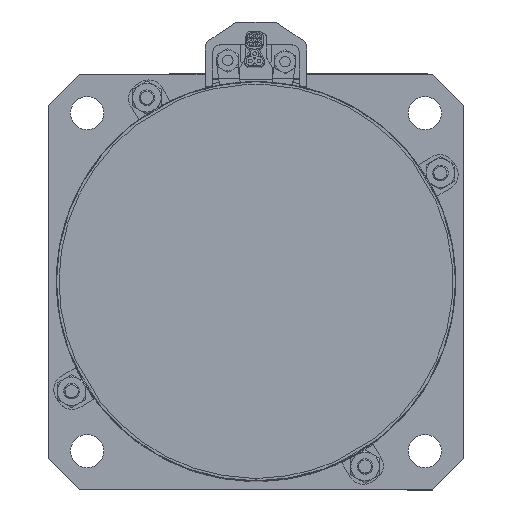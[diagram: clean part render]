
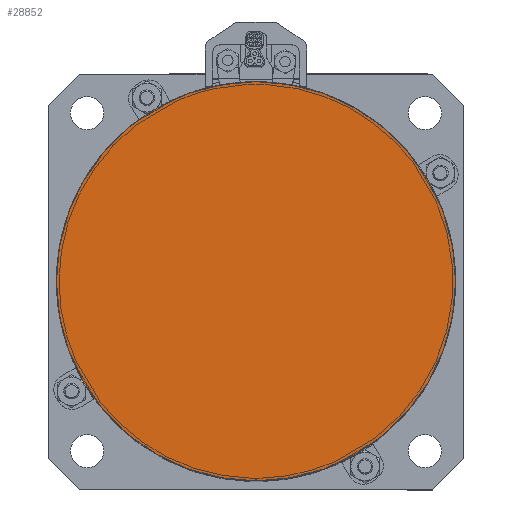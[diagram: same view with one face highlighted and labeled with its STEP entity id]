
A CAD part, top view. The second image highlights one B-rep face of the part: STEP entity #28852.
In plain terms, the highlighted planar face has unit normal (0, 0, 1).
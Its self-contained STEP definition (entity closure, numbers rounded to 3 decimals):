
#49 = ORIENTED_EDGE ( 'NONE', *, *, #8786, .T. ) ;
#678 = CARTESIAN_POINT ( 'NONE',  ( -17.129, -10.71, 147. ) ) ;
#2660 = CIRCLE ( 'NONE', #25470, 38.42 ) ;
#2843 = DIRECTION ( 'NONE',  ( -1., 0., 0. ) ) ;
#8055 = FACE_OUTER_BOUND ( 'NONE', #15977, .T. ) ;
#8383 = VERTEX_POINT ( 'NONE', #33406 ) ;
#8786 = EDGE_CURVE ( 'NONE', #8383, #20148, #28830, .T. ) ;
#11852 = PLANE ( 'NONE',  #40641 ) ;
#13720 = DIRECTION ( 'NONE',  ( -1., 0., 0. ) ) ;
#15977 = EDGE_LOOP ( 'NONE', ( #25951, #49 ) ) ;
#16297 = DIRECTION ( 'NONE',  ( 0., 0., 1. ) ) ;
#16936 = CARTESIAN_POINT ( 'NONE',  ( -55.549, -10.71, 147. ) ) ;
#17696 = CARTESIAN_POINT ( 'NONE',  ( -17.129, -10.71, 147. ) ) ;
#20148 = VERTEX_POINT ( 'NONE', #16936 ) ;
#22447 = AXIS2_PLACEMENT_3D ( 'NONE', #37009, #37127, #2843 ) ;
#24418 = DIRECTION ( 'NONE',  ( 0., 0., 1. ) ) ;
#24545 = DIRECTION ( 'NONE',  ( 1., 0., 0. ) ) ;
#25470 = AXIS2_PLACEMENT_3D ( 'NONE', #678, #16297, #13720 ) ;
#25951 = ORIENTED_EDGE ( 'NONE', *, *, #28358, .T. ) ;
#28358 = EDGE_CURVE ( 'NONE', #20148, #8383, #2660, .T. ) ;
#28830 = CIRCLE ( 'NONE', #22447, 38.42 ) ;
#28852 = ADVANCED_FACE ( 'NONE', ( #8055 ), #11852, .T. ) ;
#33406 = CARTESIAN_POINT ( 'NONE',  ( 21.291, -10.71, 147. ) ) ;
#37009 = CARTESIAN_POINT ( 'NONE',  ( -17.129, -10.71, 147. ) ) ;
#37127 = DIRECTION ( 'NONE',  ( 0., 0., 1. ) ) ;
#40641 = AXIS2_PLACEMENT_3D ( 'NONE', #17696, #24418, #24545 ) ;
